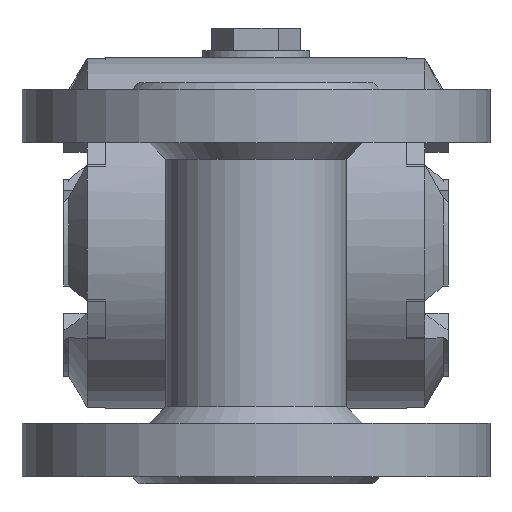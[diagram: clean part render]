
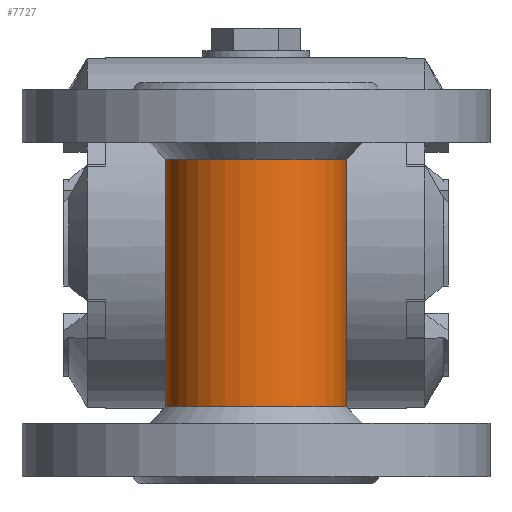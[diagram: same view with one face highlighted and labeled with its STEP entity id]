
A CAD part, front view. The second image highlights one B-rep face of the part: STEP entity #7727.
In plain terms, the highlighted cylindrical face has radius 27 mm (diameter 54 mm), a full revolution.
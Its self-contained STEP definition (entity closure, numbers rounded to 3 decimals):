
#791=CIRCLE('',#27737,27.);
#792=CIRCLE('',#27738,27.);
#3163=LINE('',#45583,#5980);
#3164=LINE('',#45600,#5981);
#5980=VECTOR('',#32775,1.);
#5981=VECTOR('',#32776,1.);
#6126=CYLINDRICAL_SURFACE('',#27739,27.);
#6340=FACE_BOUND('',#11296,.T.);
#6341=FACE_BOUND('',#11297,.T.);
#6342=FACE_BOUND('',#11298,.T.);
#7727=ADVANCED_FACE('',(#6340,#6341,#6342),#6126,.T.);
#11296=EDGE_LOOP('',(#18570));
#11297=EDGE_LOOP('',(#18571));
#11298=EDGE_LOOP('',(#18572,#18573,#18574,#18575,#18576,#18577));
#18570=ORIENTED_EDGE('',*,*,#24965,.T.);
#18571=ORIENTED_EDGE('',*,*,#24966,.T.);
#18572=ORIENTED_EDGE('',*,*,#24967,.T.);
#18573=ORIENTED_EDGE('',*,*,#24968,.T.);
#18574=ORIENTED_EDGE('',*,*,#24969,.T.);
#18575=ORIENTED_EDGE('',*,*,#24970,.T.);
#18576=ORIENTED_EDGE('',*,*,#24971,.T.);
#18577=ORIENTED_EDGE('',*,*,#24972,.T.);
#21278=VERTEX_POINT('',#45580);
#21279=VERTEX_POINT('',#45582);
#21280=VERTEX_POINT('',#45584);
#21281=VERTEX_POINT('',#45585);
#21282=VERTEX_POINT('',#45592);
#21283=VERTEX_POINT('',#45599);
#21284=VERTEX_POINT('',#45601);
#21285=VERTEX_POINT('',#45608);
#24965=EDGE_CURVE('',#21278,#21278,#791,.T.);
#24966=EDGE_CURVE('',#21279,#21279,#792,.T.);
#24967=EDGE_CURVE('',#21280,#21281,#3163,.T.);
#24968=EDGE_CURVE('',#21281,#21282,#26676,.T.);
#24969=EDGE_CURVE('',#21282,#21283,#26677,.T.);
#24970=EDGE_CURVE('',#21283,#21284,#3164,.T.);
#24971=EDGE_CURVE('',#21284,#21285,#26678,.T.);
#24972=EDGE_CURVE('',#21285,#21280,#26679,.T.);
#26676=B_SPLINE_CURVE_WITH_KNOTS('',3,(#45586,#45587,#45588,#45589,#45590,
#45591),.UNSPECIFIED.,.F.,.F.,(4,2,4),(0.,0.5,1.),.UNSPECIFIED.);
#26677=B_SPLINE_CURVE_WITH_KNOTS('',3,(#45593,#45594,#45595,#45596,#45597,
#45598),.UNSPECIFIED.,.F.,.F.,(4,2,4),(0.,0.5,1.),.UNSPECIFIED.);
#26678=B_SPLINE_CURVE_WITH_KNOTS('',3,(#45602,#45603,#45604,#45605,#45606,
#45607),.UNSPECIFIED.,.F.,.F.,(4,2,4),(0.,0.5,1.),.UNSPECIFIED.);
#26679=B_SPLINE_CURVE_WITH_KNOTS('',3,(#45609,#45610,#45611,#45612,#45613,
#45614),.UNSPECIFIED.,.F.,.F.,(4,2,4),(0.,0.5,1.),.UNSPECIFIED.);
#27737=AXIS2_PLACEMENT_3D('',#45579,#32771,#32772);
#27738=AXIS2_PLACEMENT_3D('',#45581,#32773,#32774);
#27739=AXIS2_PLACEMENT_3D('',#45615,#32777,#32778);
#32771=DIRECTION('',(0.,0.,1.));
#32772=DIRECTION('',(-1.,0.,0.));
#32773=DIRECTION('',(0.,0.,-1.));
#32774=DIRECTION('',(1.,0.,0.));
#32775=DIRECTION('',(0.,0.,-1.));
#32776=DIRECTION('',(0.,0.,1.));
#32777=DIRECTION('',(0.,0.,-1.));
#32778=DIRECTION('',(-1.,0.,0.));
#45579=CARTESIAN_POINT('',(0.016,-18.,-52.));
#45580=CARTESIAN_POINT('',(-26.984,-18.,-52.));
#45581=CARTESIAN_POINT('',(0.016,-18.,22.));
#45582=CARTESIAN_POINT('',(27.016,-18.,22.));
#45583=CARTESIAN_POINT('',(-10.182,7.,107.));
#45584=CARTESIAN_POINT('',(-10.182,7.,7.25));
#45585=CARTESIAN_POINT('',(-10.182,7.,-7.25));
#45586=CARTESIAN_POINT('',(-10.182,7.,-7.25));
#45587=CARTESIAN_POINT('',(-9.235,7.386,-9.247));
#45588=CARTESIAN_POINT('',(-7.891,7.878,-11.013));
#45589=CARTESIAN_POINT('',(-4.416,8.693,-13.658));
#45590=CARTESIAN_POINT('',(-2.24,9.,-14.502));
#45591=CARTESIAN_POINT('',(0.016,9.,-14.5));
#45592=CARTESIAN_POINT('',(0.016,9.,-14.5));
#45593=CARTESIAN_POINT('',(0.016,9.,-14.5));
#45594=CARTESIAN_POINT('',(2.273,9.,-14.498));
#45595=CARTESIAN_POINT('',(4.433,8.697,-13.659));
#45596=CARTESIAN_POINT('',(7.934,7.875,-10.984));
#45597=CARTESIAN_POINT('',(9.271,7.385,-9.209));
#45598=CARTESIAN_POINT('',(10.214,7.,-7.206));
#45599=CARTESIAN_POINT('',(10.214,7.,-7.206));
#45600=CARTESIAN_POINT('',(10.214,7.,107.));
#45601=CARTESIAN_POINT('',(10.214,7.,7.206));
#45602=CARTESIAN_POINT('',(10.214,7.,7.206));
#45603=CARTESIAN_POINT('',(9.271,7.385,9.21));
#45604=CARTESIAN_POINT('',(7.929,7.876,10.985));
#45605=CARTESIAN_POINT('',(4.455,8.692,13.645));
#45606=CARTESIAN_POINT('',(2.276,9.,14.498));
#45607=CARTESIAN_POINT('',(0.016,9.,14.5));
#45608=CARTESIAN_POINT('',(0.016,9.,14.5));
#45609=CARTESIAN_POINT('',(0.016,9.,14.5));
#45610=CARTESIAN_POINT('',(-2.237,9.,14.502));
#45611=CARTESIAN_POINT('',(-4.395,8.698,13.672));
#45612=CARTESIAN_POINT('',(-7.896,7.877,11.012));
#45613=CARTESIAN_POINT('',(-9.236,7.386,9.246));
#45614=CARTESIAN_POINT('',(-10.182,7.,7.25));
#45615=CARTESIAN_POINT('',(0.016,-18.,107.));
